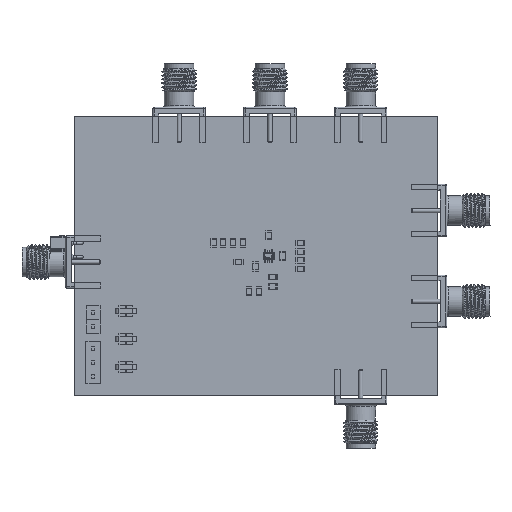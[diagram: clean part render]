
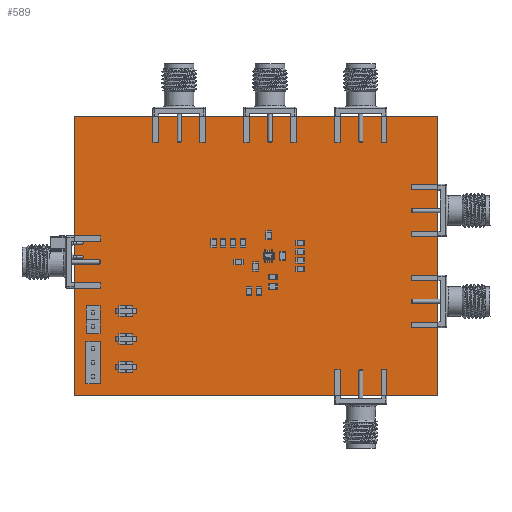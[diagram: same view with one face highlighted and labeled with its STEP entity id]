
A CAD part, top view. The second image highlights one B-rep face of the part: STEP entity #589.
In plain terms, the highlighted planar face has unit normal (0, 0, 1).
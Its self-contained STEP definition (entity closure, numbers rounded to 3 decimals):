
#208 = VERTEX_POINT('',#209);
#209 = CARTESIAN_POINT('',(0.,0.,1.59));
#215 = EDGE_CURVE('',#208,#216,#218,.T.);
#216 = VERTEX_POINT('',#217);
#217 = CARTESIAN_POINT('',(66.04,0.,1.59));
#218 = LINE('',#219,#220);
#219 = CARTESIAN_POINT('',(0.,0.,1.59));
#220 = VECTOR('',#221,1.);
#221 = DIRECTION('',(1.,0.,0.));
#246 = EDGE_CURVE('',#216,#247,#249,.T.);
#247 = VERTEX_POINT('',#248);
#248 = CARTESIAN_POINT('',(66.04,50.8,1.59));
#249 = LINE('',#250,#251);
#250 = CARTESIAN_POINT('',(66.04,0.,1.59));
#251 = VECTOR('',#252,1.);
#252 = DIRECTION('',(0.,1.,0.));
#277 = EDGE_CURVE('',#247,#278,#280,.T.);
#278 = VERTEX_POINT('',#279);
#279 = CARTESIAN_POINT('',(0.,50.8,1.59));
#280 = LINE('',#281,#282);
#281 = CARTESIAN_POINT('',(66.04,50.8,1.59));
#282 = VECTOR('',#283,1.);
#283 = DIRECTION('',(-1.,0.,0.));
#308 = EDGE_CURVE('',#278,#208,#309,.T.);
#309 = LINE('',#310,#311);
#310 = CARTESIAN_POINT('',(0.,50.8,1.59));
#311 = VECTOR('',#312,1.);
#312 = DIRECTION('',(0.,-1.,0.));
#332 = VERTEX_POINT('',#333);
#333 = CARTESIAN_POINT('',(3.908,8.552,1.59));
#339 = EDGE_CURVE('',#332,#332,#340,.T.);
#340 = CIRCLE('',#341,0.508);
#341 = AXIS2_PLACEMENT_3D('',#342,#343,#344);
#342 = CARTESIAN_POINT('',(3.4,8.552,1.59));
#343 = DIRECTION('',(0.,0.,1.));
#344 = DIRECTION('',(1.,0.,-0.));
#365 = VERTEX_POINT('',#366);
#366 = CARTESIAN_POINT('',(1.611,27.761,1.59));
#372 = EDGE_CURVE('',#365,#365,#373,.T.);
#373 = CIRCLE('',#374,0.325);
#374 = AXIS2_PLACEMENT_3D('',#375,#376,#377);
#375 = CARTESIAN_POINT('',(1.286,27.761,1.59));
#376 = DIRECTION('',(0.,0.,1.));
#377 = DIRECTION('',(1.,0.,-0.));
#398 = VERTEX_POINT('',#399);
#399 = CARTESIAN_POINT('',(1.611,25.221,1.59));
#405 = EDGE_CURVE('',#398,#398,#406,.T.);
#406 = CIRCLE('',#407,0.325);
#407 = AXIS2_PLACEMENT_3D('',#408,#409,#410);
#408 = CARTESIAN_POINT('',(1.286,25.221,1.59));
#409 = DIRECTION('',(0.,0.,1.));
#410 = DIRECTION('',(1.,0.,-0.));
#431 = VERTEX_POINT('',#432);
#432 = CARTESIAN_POINT('',(3.908,6.012,1.59));
#438 = EDGE_CURVE('',#431,#431,#439,.T.);
#439 = CIRCLE('',#440,0.508);
#440 = AXIS2_PLACEMENT_3D('',#441,#442,#443);
#441 = CARTESIAN_POINT('',(3.4,6.012,1.59));
#442 = DIRECTION('',(0.,0.,1.));
#443 = DIRECTION('',(1.,0.,-0.));
#464 = VERTEX_POINT('',#465);
#465 = CARTESIAN_POINT('',(3.908,3.472,1.59));
#471 = EDGE_CURVE('',#464,#464,#472,.T.);
#472 = CIRCLE('',#473,0.508);
#473 = AXIS2_PLACEMENT_3D('',#474,#475,#476);
#474 = CARTESIAN_POINT('',(3.4,3.472,1.59));
#475 = DIRECTION('',(0.,0.,1.));
#476 = DIRECTION('',(1.,0.,-0.));
#497 = VERTEX_POINT('',#498);
#498 = CARTESIAN_POINT('',(3.908,15.089,1.59));
#504 = EDGE_CURVE('',#497,#497,#505,.T.);
#505 = CIRCLE('',#506,0.508);
#506 = AXIS2_PLACEMENT_3D('',#507,#508,#509);
#507 = CARTESIAN_POINT('',(3.4,15.089,1.59));
#508 = DIRECTION('',(0.,0.,1.));
#509 = DIRECTION('',(1.,0.,-0.));
#530 = VERTEX_POINT('',#531);
#531 = CARTESIAN_POINT('',(3.908,12.549,1.59));
#537 = EDGE_CURVE('',#530,#530,#538,.T.);
#538 = CIRCLE('',#539,0.508);
#539 = AXIS2_PLACEMENT_3D('',#540,#541,#542);
#540 = CARTESIAN_POINT('',(3.4,12.549,1.59));
#541 = DIRECTION('',(0.,0.,1.));
#542 = DIRECTION('',(1.,0.,-0.));
#589 = ADVANCED_FACE('',(#590,#596,#599,#602,#605,#608,#611,#614),#617,
  .T.);
#590 = FACE_BOUND('',#591,.T.);
#591 = EDGE_LOOP('',(#592,#593,#594,#595));
#592 = ORIENTED_EDGE('',*,*,#215,.T.);
#593 = ORIENTED_EDGE('',*,*,#246,.T.);
#594 = ORIENTED_EDGE('',*,*,#277,.T.);
#595 = ORIENTED_EDGE('',*,*,#308,.T.);
#596 = FACE_BOUND('',#597,.T.);
#597 = EDGE_LOOP('',(#598));
#598 = ORIENTED_EDGE('',*,*,#339,.F.);
#599 = FACE_BOUND('',#600,.T.);
#600 = EDGE_LOOP('',(#601));
#601 = ORIENTED_EDGE('',*,*,#372,.F.);
#602 = FACE_BOUND('',#603,.T.);
#603 = EDGE_LOOP('',(#604));
#604 = ORIENTED_EDGE('',*,*,#405,.F.);
#605 = FACE_BOUND('',#606,.T.);
#606 = EDGE_LOOP('',(#607));
#607 = ORIENTED_EDGE('',*,*,#438,.F.);
#608 = FACE_BOUND('',#609,.T.);
#609 = EDGE_LOOP('',(#610));
#610 = ORIENTED_EDGE('',*,*,#471,.F.);
#611 = FACE_BOUND('',#612,.T.);
#612 = EDGE_LOOP('',(#613));
#613 = ORIENTED_EDGE('',*,*,#504,.F.);
#614 = FACE_BOUND('',#615,.T.);
#615 = EDGE_LOOP('',(#616));
#616 = ORIENTED_EDGE('',*,*,#537,.F.);
#617 = PLANE('',#618);
#618 = AXIS2_PLACEMENT_3D('',#619,#620,#621);
#619 = CARTESIAN_POINT('',(33.02,25.4,1.59));
#620 = DIRECTION('',(0.,0.,1.));
#621 = DIRECTION('',(1.,0.,-0.));
